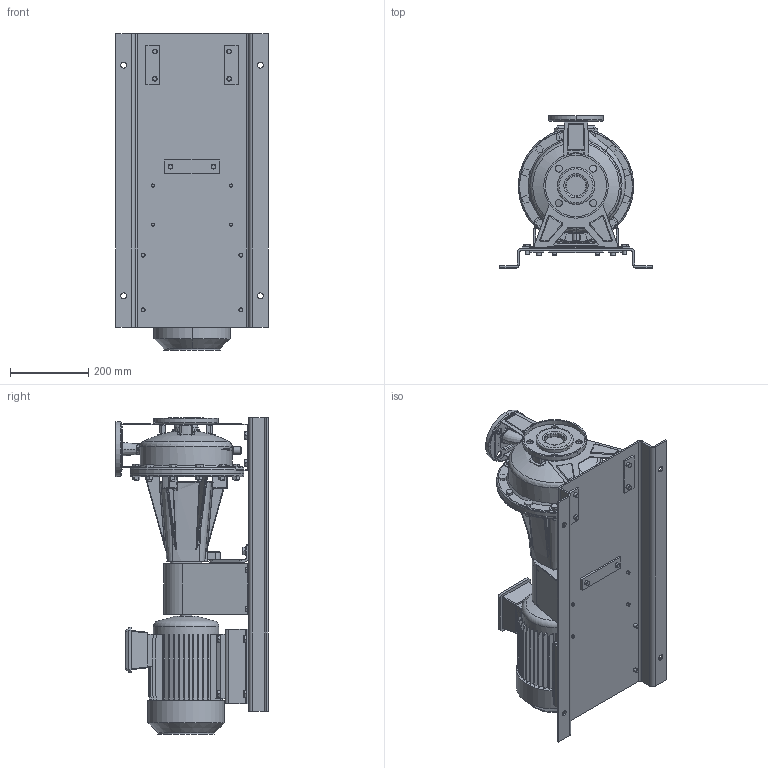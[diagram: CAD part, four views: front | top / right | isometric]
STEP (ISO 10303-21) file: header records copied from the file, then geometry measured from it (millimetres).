
FILE_DESCRIPTION((''),'2;1');
FILE_NAME('3P_32-200_3_IE3_ASM','2020-05-12T',('rosa'),('"Ebara Pumps Europe +39.444.706811"'),'PRO/ENGINEER BY PARAMETRIC TECHNOLOGY CORPORATION, 2017170','PRO/ENGINEER BY PARAMETRIC TECHNOLOGY CORPORATION, 2017170','');
FILE_SCHEMA(('AUTOMOTIVE_DESIGN { 1 0 10303 214 1 1 1 1 }'));
Products named in the file (23): 72054_271472056; CORPO_32-200_AF0; ASP_32-200; FLANGIA_DIN_50; MAND_32-200; FLANGIA_DIN_32; BASE_3M_32-200; CORPO_SALDATO_32-200_ASM; 80615; 80617; SOSTEGNO_SUPPORTO_3P_72031; 367617005; M12X30; 360610085; VITE_8-8_TEIF_UNI5739-M12X025; VITE_8-8_TEIF_UNI5739-M12X020; GIUNTO_3P_24X28; MOTORE_100L_B3; COPRIGIUNTO_73091; VITE_8-8_TEIF_UNI5739-M08X012; SOSTEGNO_72044_100; VITE_8-8_TEIF_UNI5739-M10X020; 3P_32-200_3_IE3_ASM
Assembly tree (37 placements, depth 3):
  3P_32-200_3_IE3_ASM
    72054_271472056
    CORPO_SALDATO_32-200_ASM
      CORPO_32-200_AF0
      ASP_32-200
      FLANGIA_DIN_50
      MAND_32-200
      FLANGIA_DIN_32
      BASE_3M_32-200
    80615
    80617
    SOSTEGNO_SUPPORTO_3P_72031
    367617005
    M12X30
    360610085  x2
    VITE_8-8_TEIF_UNI5739-M12X025  x2
    VITE_8-8_TEIF_UNI5739-M12X020  x4
    GIUNTO_3P_24X28
    MOTORE_100L_B3
    COPRIGIUNTO_73091
    VITE_8-8_TEIF_UNI5739-M08X012  x4
    SOSTEGNO_72044_100
    VITE_8-8_TEIF_UNI5739-M10X020  x8
Bounding box: 390 x 390 x 809 mm (x, y, z)
Volume: 18610125.9 mm3; surface area: 2474906.8 mm2
Topology: 41 solids, 59 shells, 1999 faces, 4991 edges, 3213 vertices
Faces by surface type: plane 996, cylinder 547, cone 207, bspline 131, torus 106, sphere 12
Entity records: 76486 total; most frequent: CARTESIAN_POINT 18394, ORIENTED_EDGE 8598, DIRECTION 8544, PRESENTATION_STYLE_ASSIGNMENT 4337, STYLED_ITEM 4337, CURVE_STYLE 4307, EDGE_CURVE 4307, AXIS2_PLACEMENT_3D 3066
